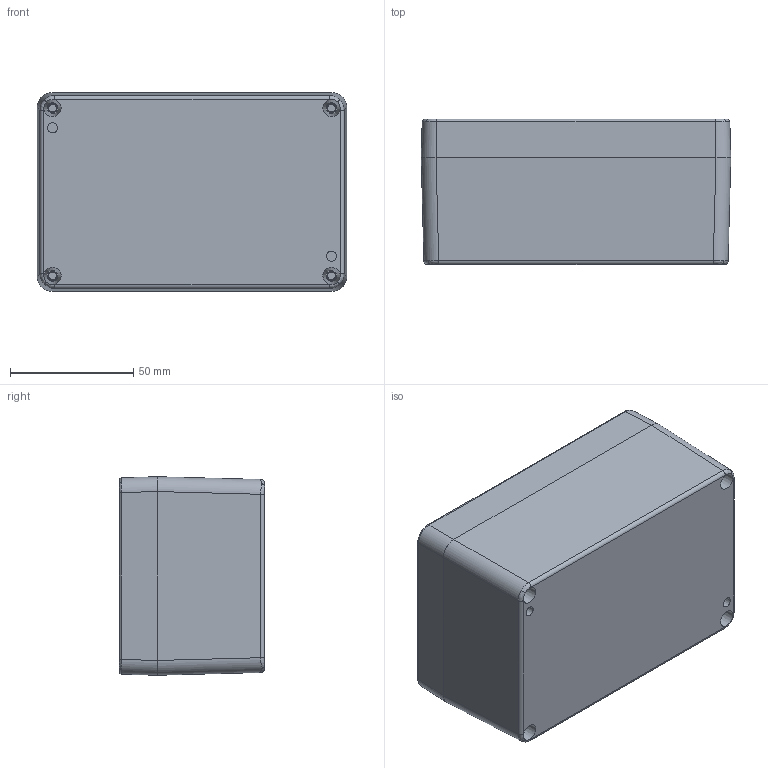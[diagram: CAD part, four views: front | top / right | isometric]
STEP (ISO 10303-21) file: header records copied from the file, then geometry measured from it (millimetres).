
FILE_DESCRIPTION(/* description */ (''),/* implementation_level */ '2;1');
FILE_NAME(/* name */ 'E:\Eng\Customer Service\Drawings\1590Z\STEP\1590Z120\1590Z120.iam.stp',/* time_stamp */ '2015-04-20T08:46:21-04:00',/* author */ ('tcook'),/* organization */ (''),/* preprocessor_version */ 'ST-DEVELOPER v15.6',/* originating_system */ 'Autodesk Inventor 2015',/* authorisation */ '');
FILE_SCHEMA (('AUTOMOTIVE_DESIGN { 1 0 10303 214 3 1 1 }'));
Products named in the file (6): 1550Z108 BOX; 1550Z107 LID; 1550Z107 GASKET; 1590Z120PL; (screw M4-0.7X 25mm FH); 1590Z120
Assembly tree (8 placements, depth 2):
  1590Z120
    1550Z108 BOX
    1550Z107 LID
    1550Z107 GASKET
    1590Z120PL
    (screw M4-0.7X 25mm FH)  x4
Bounding box: 125.4 x 58.8 x 80.4 mm (x, y, z)
Volume: 199426.1 mm3; surface area: 108942.8 mm2
Topology: 8 solids, 8 shells, 1377 faces, 3530 edges, 2259 vertices
Faces by surface type: bspline 494, plane 441, cylinder 172, cone 140, torus 122, sphere 8
Full cylindrical faces by diameter (mm): 3.38 x4, 3.6 x4, 3.82 x4, 4.242 x4
Entity records: 61839 total; most frequent: CARTESIAN_POINT 33555, ORIENTED_EDGE 6484, DIRECTION 4563, EDGE_CURVE 3242, VERTEX_POINT 2101, LINE 1525, VECTOR 1525, AXIS2_PLACEMENT_3D 1519
